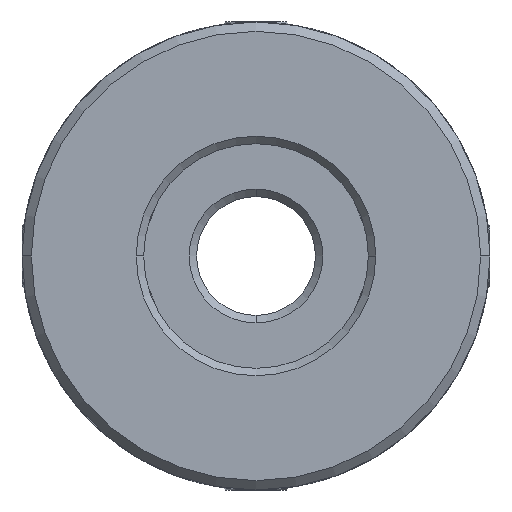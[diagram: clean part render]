
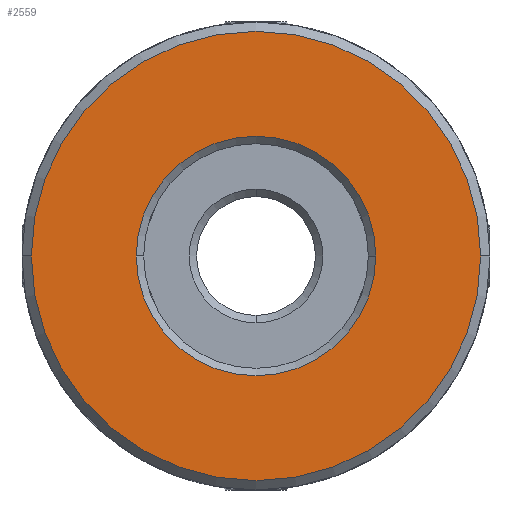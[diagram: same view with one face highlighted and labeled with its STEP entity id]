
A CAD part, front view. The second image highlights one B-rep face of the part: STEP entity #2559.
In plain terms, the highlighted planar face has unit normal (0, -1, 0).
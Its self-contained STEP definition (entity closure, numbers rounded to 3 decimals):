
#324 = CIRCLE ( 'NONE', #6875, 6.4 ) ;
#737 = DIRECTION ( 'NONE',  ( -1., 0., 0. ) ) ;
#1244 = AXIS2_PLACEMENT_3D ( 'NONE', #7294, #4148, #2713 ) ;
#1526 = CARTESIAN_POINT ( 'NONE',  ( -19.597, -28., -50. ) ) ;
#1741 = CARTESIAN_POINT ( 'NONE',  ( -12., -28., 0. ) ) ;
#2005 = CIRCLE ( 'NONE', #1244, 12. ) ;
#2275 = DIRECTION ( 'NONE',  ( 0., 1., 0. ) ) ;
#2559 = ADVANCED_FACE ( 'NONE', ( #5385, #9145 ), #7634, .F. ) ;
#2579 = AXIS2_PLACEMENT_3D ( 'NONE', #8145, #3552, #6669 ) ;
#2713 = DIRECTION ( 'NONE',  ( -1., 0., 0. ) ) ;
#2949 = DIRECTION ( 'NONE',  ( 0., 1., 0. ) ) ;
#3552 = DIRECTION ( 'NONE',  ( 0., -1., 0. ) ) ;
#3812 = VERTEX_POINT ( 'NONE', #4599 ) ;
#4148 = DIRECTION ( 'NONE',  ( 0., -1., 0. ) ) ;
#4166 = ORIENTED_EDGE ( 'NONE', *, *, #5285, .T. ) ;
#4599 = CARTESIAN_POINT ( 'NONE',  ( 6.4, -28., 0. ) ) ;
#5111 = CARTESIAN_POINT ( 'NONE',  ( 12., -28., 0. ) ) ;
#5285 = EDGE_CURVE ( 'NONE', #3812, #6082, #7902, .T. ) ;
#5328 = EDGE_CURVE ( 'NONE', #6082, #3812, #324, .T. ) ;
#5381 = DIRECTION ( 'NONE',  ( 0., 1., 0. ) ) ;
#5385 = FACE_OUTER_BOUND ( 'NONE', #7491, .T. ) ;
#5512 = CARTESIAN_POINT ( 'NONE',  ( 0., -28., 0. ) ) ;
#5580 = ORIENTED_EDGE ( 'NONE', *, *, #5328, .T. ) ;
#6068 = DIRECTION ( 'NONE',  ( -1., 0., 0. ) ) ;
#6082 = VERTEX_POINT ( 'NONE', #7161 ) ;
#6157 = EDGE_CURVE ( 'NONE', #7811, #9680, #9587, .T. ) ;
#6669 = DIRECTION ( 'NONE',  ( -1., 0., 0. ) ) ;
#6875 = AXIS2_PLACEMENT_3D ( 'NONE', #5512, #5381, #7030 ) ;
#7030 = DIRECTION ( 'NONE',  ( -1., 0., 0. ) ) ;
#7062 = AXIS2_PLACEMENT_3D ( 'NONE', #7541, #2949, #737 ) ;
#7161 = CARTESIAN_POINT ( 'NONE',  ( -6.4, -28., 0. ) ) ;
#7294 = CARTESIAN_POINT ( 'NONE',  ( 0., -28., 0. ) ) ;
#7491 = EDGE_LOOP ( 'NONE', ( #8478, #9792 ) ) ;
#7541 = CARTESIAN_POINT ( 'NONE',  ( 0., -28., 0. ) ) ;
#7634 = PLANE ( 'NONE',  #7734 ) ;
#7734 = AXIS2_PLACEMENT_3D ( 'NONE', #1526, #2275, #6068 ) ;
#7811 = VERTEX_POINT ( 'NONE', #5111 ) ;
#7902 = CIRCLE ( 'NONE', #7062, 6.4 ) ;
#8145 = CARTESIAN_POINT ( 'NONE',  ( 0., -28., 0. ) ) ;
#8331 = EDGE_LOOP ( 'NONE', ( #4166, #5580 ) ) ;
#8478 = ORIENTED_EDGE ( 'NONE', *, *, #8644, .T. ) ;
#8644 = EDGE_CURVE ( 'NONE', #9680, #7811, #2005, .T. ) ;
#9145 = FACE_BOUND ( 'NONE', #8331, .T. ) ;
#9587 = CIRCLE ( 'NONE', #2579, 12. ) ;
#9680 = VERTEX_POINT ( 'NONE', #1741 ) ;
#9792 = ORIENTED_EDGE ( 'NONE', *, *, #6157, .T. ) ;
